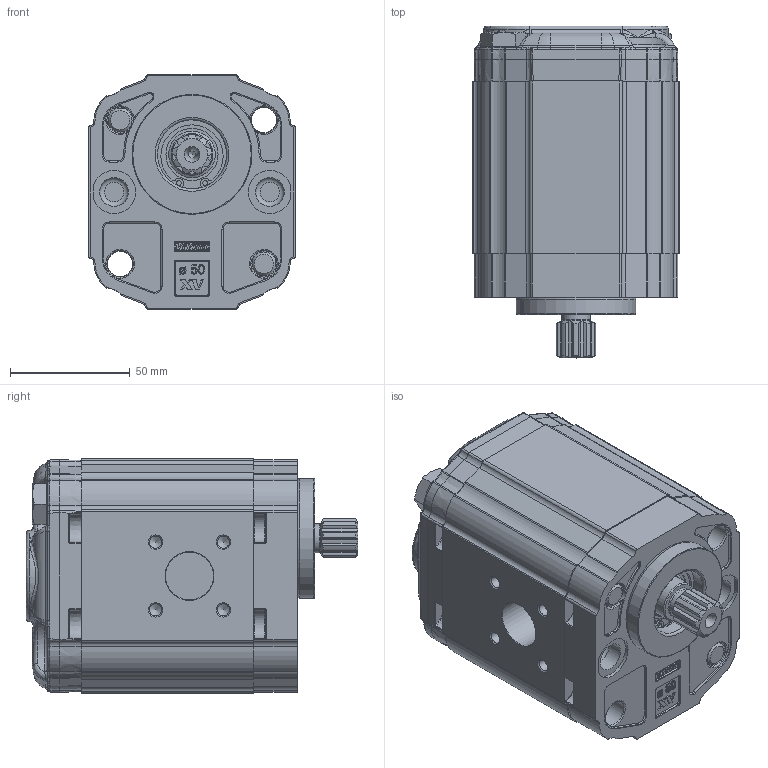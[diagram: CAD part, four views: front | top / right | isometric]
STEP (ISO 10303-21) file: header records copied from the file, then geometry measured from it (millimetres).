
FILE_DESCRIPTION(/* description */ ('Unknown'),/* implementation_level */ '2;1');
FILE_NAME(/* name */ 'X2P5312HSRA',/* time_stamp */ '2021-07-16T12:57:05+02:00',/* author */ ('Unknown'),/* organization */ ('Unknown'),/* preprocessor_version */ 'ST-DEVELOPER v16.7',/* originating_system */ 'Solid Edge',/* authorisation */ 'Unknown');
FILE_SCHEMA (('AP242_MANAGED_MODEL_BASED_3D_ENGINEERING_MIM_LF { 1 0 10303 442 1 1 4 }','AUTOMOTIVE_DESIGN {1 0 10303 214 3 1 1}'));
Products named in the file (5): X2P5312HSRA; X2P12; 2H; X2SRH72; XP210-A
Assembly tree (4 placements, depth 2):
  X2P5312HSRA
    X2P12
    2H
    X2SRH72
    XP210-A
Bounding box: 86 x 138.5 x 98 mm (x, y, z)
Volume: 793561.9 mm3; surface area: 109244.6 mm2
Topology: 4 solids, 7 shells, 1904 faces, 4723 edges, 2901 vertices
Faces by surface type: cylinder 609, plane 507, bspline 492, torus 202, cone 82, sphere 12
Full cylindrical faces by diameter (mm): 2 x2, 5 x8, 8.5 x2, 10 x2, 10.5 x8, 11 x4, 12 x3, 15 x1, 16 x2, 17.42 x1, 17.48 x2, 18.724 x1, 20 x1, 20.595 x1, 21.741 x1, 25.834 x1, 28.56 x1, 28.57 x1, 28.8 x1, 30.5 x1, 50 x1
Entity records: 81215 total; most frequent: CARTESIAN_POINT 27237, ORIENTED_EDGE 9062, DIRECTION 7426, EDGE_CURVE 4531, VERTEX_POINT 2850, AXIS2_PLACEMENT_3D 2779, FACE_BOUND 2131, EDGE_LOOP 2121
